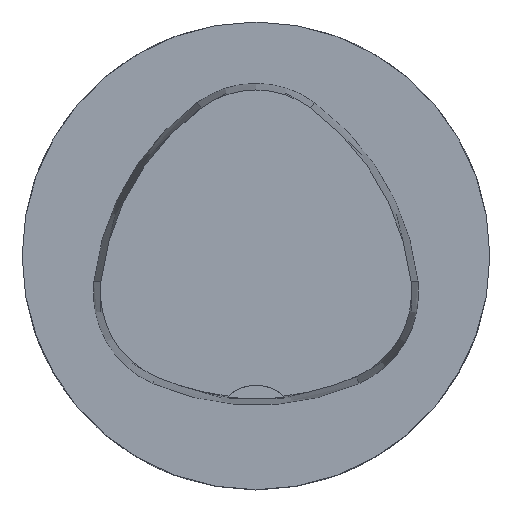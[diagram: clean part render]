
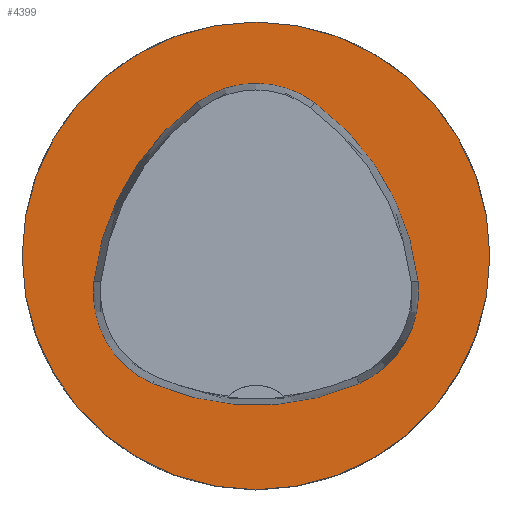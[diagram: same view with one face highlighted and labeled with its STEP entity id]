
A CAD part, top view. The second image highlights one B-rep face of the part: STEP entity #4399.
In plain terms, the highlighted planar face has unit normal (0, 0, 1).
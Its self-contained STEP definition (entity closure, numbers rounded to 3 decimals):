
#4344 = PLANE('', #4774);
#4399 = ADVANCED_FACE('', (#4479, #4480), #4344, .T.);
#4479 = FACE_BOUND('', #4500, .T.);
#4480 = FACE_BOUND('', #4501, .T.);
#4500 = EDGE_LOOP('', (#4577, #4578, #4579, #4580, #4581, #4582));
#4501 = EDGE_LOOP('', (#4583));
#4577 = ORIENTED_EDGE('', *, *, #4704, .T.);
#4578 = ORIENTED_EDGE('', *, *, #4684, .T.);
#4579 = ORIENTED_EDGE('', *, *, #4688, .T.);
#4580 = ORIENTED_EDGE('', *, *, #4691, .T.);
#4581 = ORIENTED_EDGE('', *, *, #4694, .T.);
#4582 = ORIENTED_EDGE('', *, *, #4702, .T.);
#4583 = ORIENTED_EDGE('', *, *, #4675, .F.);
#4638 = VERTEX_POINT('', #4953);
#4647 = VERTEX_POINT('', #4972);
#4648 = VERTEX_POINT('', #4973);
#4651 = VERTEX_POINT('', #4981);
#4653 = VERTEX_POINT('', #4987);
#4655 = VERTEX_POINT('', #4993);
#4662 = VERTEX_POINT('', #5014);
#4675 = EDGE_CURVE('', #4638, #4638, #4720, .T.);
#4684 = EDGE_CURVE('', #4647, #4648, #4721, .T.);
#4688 = EDGE_CURVE('', #4648, #4651, #4723, .T.);
#4691 = EDGE_CURVE('', #4651, #4653, #4725, .T.);
#4694 = EDGE_CURVE('', #4653, #4655, #4727, .T.);
#4702 = EDGE_CURVE('', #4655, #4662, #4731, .T.);
#4704 = EDGE_CURVE('', #4662, #4647, #4733, .T.);
#4720 = CIRCLE('', #4746, 40.);
#4721 = CIRCLE('', #4752, 44.);
#4723 = CIRCLE('', #4755, 17.);
#4725 = CIRCLE('', #4758, 44.);
#4727 = CIRCLE('', #4761, 17.);
#4731 = CIRCLE('', #4766, 44.);
#4733 = CIRCLE('', #4769, 17.);
#4746 = AXIS2_PLACEMENT_3D('', #4952, #4813, #4814);
#4752 = AXIS2_PLACEMENT_3D('', #4971, #4829, #4830);
#4755 = AXIS2_PLACEMENT_3D('', #4980, #4837, #4838);
#4758 = AXIS2_PLACEMENT_3D('', #4986, #4844, #4845);
#4761 = AXIS2_PLACEMENT_3D('', #4992, #4851, #4852);
#4766 = AXIS2_PLACEMENT_3D('', #5015, #4863, #4864);
#4769 = AXIS2_PLACEMENT_3D('', #5018, #4869, #4870);
#4774 = AXIS2_PLACEMENT_3D('', #5023, #4879, #4880);
#4813 = DIRECTION('', (0., 0., -1.));
#4814 = DIRECTION('', (-1., 0., 0.));
#4829 = DIRECTION('', (0., 0., -1.));
#4830 = DIRECTION('', (-1., 0., 0.));
#4837 = DIRECTION('', (0., 0., -1.));
#4838 = DIRECTION('', (-1., 0., 0.));
#4844 = DIRECTION('', (0., 0., -1.));
#4845 = DIRECTION('', (-1., 0., 0.));
#4851 = DIRECTION('', (0., 0., -1.));
#4852 = DIRECTION('', (-1., 0., 0.));
#4863 = DIRECTION('', (0., 0., -1.));
#4864 = DIRECTION('', (-1., 0., 0.));
#4869 = DIRECTION('', (0., 0., -1.));
#4870 = DIRECTION('', (-1., 0., 0.));
#4879 = DIRECTION('', (0., 0., 1.));
#4880 = DIRECTION('', (-1., 0., 0.));
#4952 = CARTESIAN_POINT('', (0., 0., 0.));
#4953 = CARTESIAN_POINT('', (-40., 0., 0.));
#4971 = CARTESIAN_POINT('', (16.01, -9.224, 0.));
#4972 = CARTESIAN_POINT('', (-27.722, -4.378, 0.));
#4973 = CARTESIAN_POINT('', (-10.119, 26.178, 0.));
#4980 = CARTESIAN_POINT('', (-0.023, 12.5, 0.));
#4981 = CARTESIAN_POINT('', (10.049, 26.194, 0.));
#4986 = CARTESIAN_POINT('', (-16.021, -9.25, 0.));
#4987 = CARTESIAN_POINT('', (27.71, -4.394, 0.));
#4992 = CARTESIAN_POINT('', (10.814, -6.27, 0.));
#4993 = CARTESIAN_POINT('', (17.611, -21.852, 0.));
#5014 = CARTESIAN_POINT('', (-17.652, -21.819, 0.));
#5015 = CARTESIAN_POINT('', (0.017, 18.477, 0.));
#5018 = CARTESIAN_POINT('', (-10.825, -6.25, 0.));
#5023 = CARTESIAN_POINT('', (0., 0., 0.));
